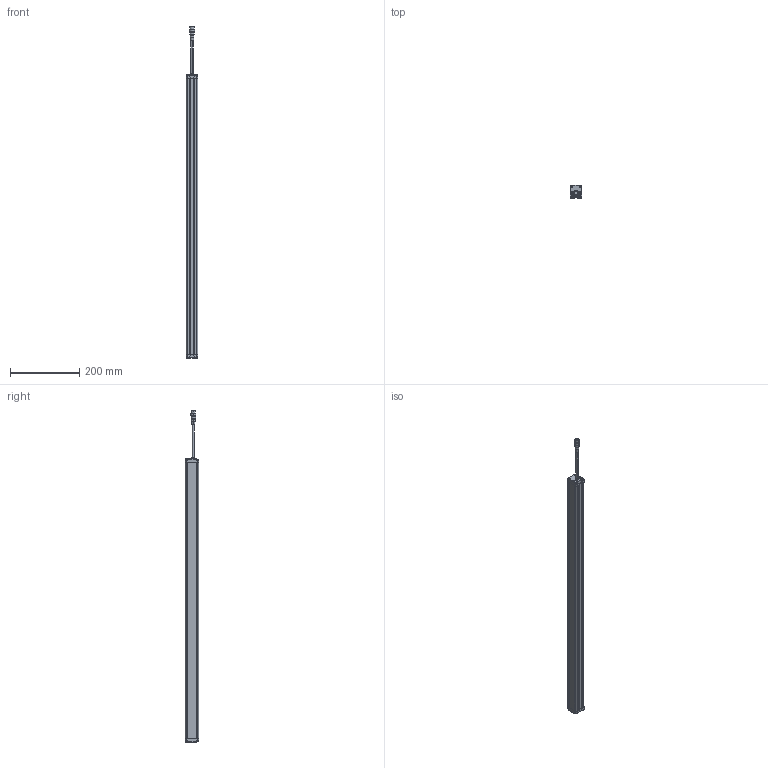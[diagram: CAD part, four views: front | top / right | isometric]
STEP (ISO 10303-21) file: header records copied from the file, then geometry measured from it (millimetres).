
FILE_DESCRIPTION((''),'2;1');
FILE_NAME('PRT0020','2026-03-31T11:00:34',('Administrator'),(''),'CREO PARAMETRIC BY PTC INC, 2016510','CREO PARAMETRIC BY PTC INC, 2016510','');
FILE_SCHEMA(('AUTOMOTIVE_DESIGN { 1 0 10303 214 1 1 1 1 }'));
Length unit declared in the file: millimetre
Products named in the file (1): PRT0020
Bounding box: 33 x 38 x 961.9 mm (x, y, z)
Surface area: 184493.8 mm2 (no closed solid volume)
Topology: 0 solids, 12 shells, 819 faces, 2190 edges, 1390 vertices
Faces by surface type: plane 388, cylinder 235, extrusion 88, sphere 40, torus 36, cone 28, bspline 4
Entity records: 32413 total; most frequent: CARTESIAN_POINT 6114, ORIENTED_EDGE 4276, DIRECTION 4046, EDGE_CURVE 2138, VERTEX_POINT 1390, AXIS2_PLACEMENT_3D 1377, VECTOR 1292, LINE 1204
